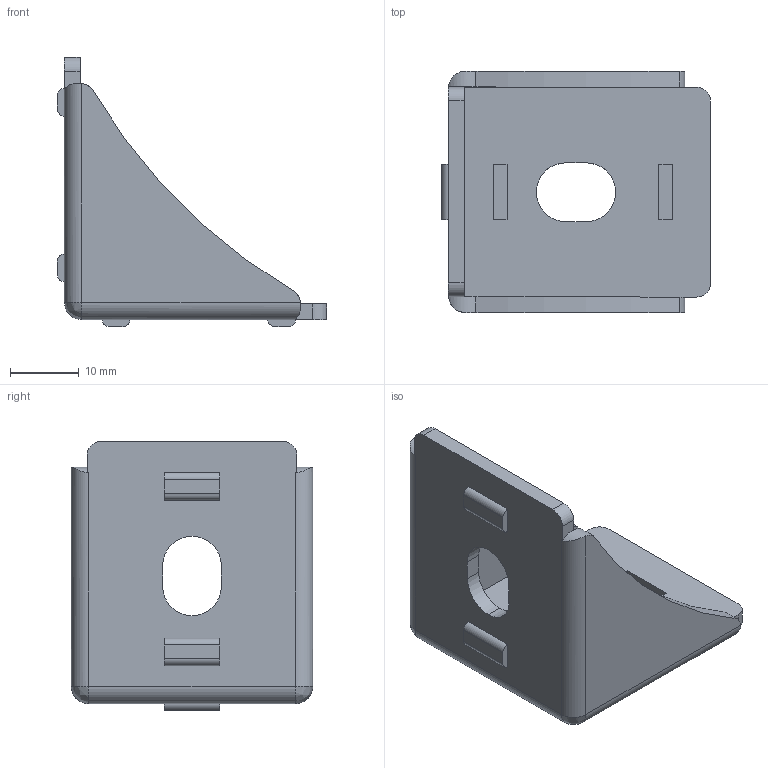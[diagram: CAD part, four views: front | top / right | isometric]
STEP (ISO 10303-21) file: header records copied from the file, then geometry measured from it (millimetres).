
FILE_DESCRIPTION (( 'STEP AP203' ), '1' );
FILE_NAME ('DCB4035(Z+S)-8.STEP', '2019-09-03T07:52:37', ( '' ), ( '' ), 'SwSTEP 2.0', 'SolidWorks 2017', '' );
FILE_SCHEMA (( 'CONFIG_CONTROL_DESIGN' ));
Length unit declared in the file: millimetre
Products named in the file (1): DCB4035(Z+S)-8
Bounding box: 39 x 35 x 39 mm (x, y, z)
Volume: 7423 mm3; surface area: 7120.6 mm2
Topology: 1 solids, 1 shells, 85 faces, 211 edges, 136 vertices
Faces by surface type: plane 50, cylinder 33, bspline 2
Entity records: 2682 total; most frequent: CARTESIAN_POINT 539, DIRECTION 433, ORIENTED_EDGE 422, EDGE_CURVE 211, AXIS2_PLACEMENT_3D 146, LINE 141, VECTOR 141, VERTEX_POINT 136
